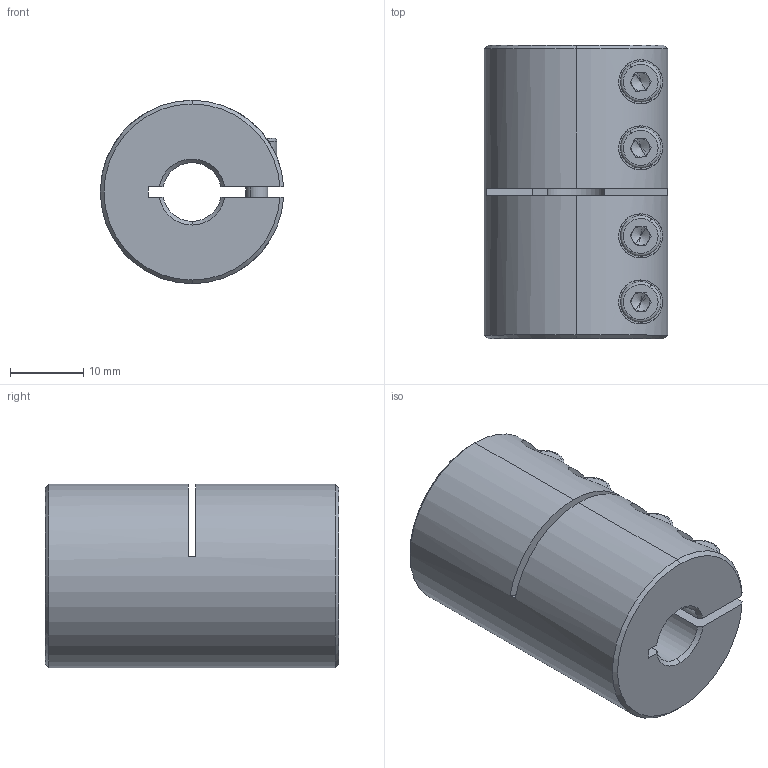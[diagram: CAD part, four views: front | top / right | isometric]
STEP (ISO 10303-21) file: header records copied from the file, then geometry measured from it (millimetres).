
FILE_DESCRIPTION (( 'STEP AP214' ), '1' );
FILE_NAME ('LL-B-D25L40-8-8½¨Ä£.STEP', '2022-07-21T05:16:03', ( '' ), ( '' ), 'SwSTEP 2.0', 'SolidWorks 2022', '' );
FILE_SCHEMA (( 'AUTOMOTIVE_DESIGN' ));
Length unit declared in the file: millimetre
Products named in the file (1): LL-B-D25L40-8-8膘耀
Bounding box: 24.98 x 40 x 25 mm (x, y, z)
Volume: 16451.4 mm3; surface area: 7102.3 mm2
Topology: 1 solids, 1 shells, 173 faces, 440 edges, 277 vertices
Faces by surface type: plane 83, cylinder 62, cone 20, torus 8
Entity records: 5667 total; most frequent: CARTESIAN_POINT 1407, DIRECTION 915, ORIENTED_EDGE 864, EDGE_CURVE 432, AXIS2_PLACEMENT_3D 353, VERTEX_POINT 277, VECTOR 209, LINE 209
